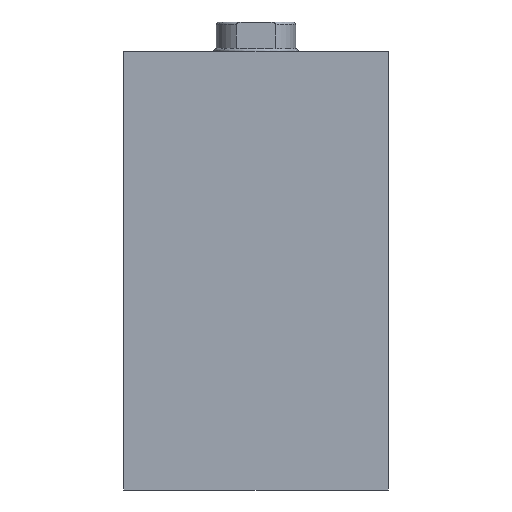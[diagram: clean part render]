
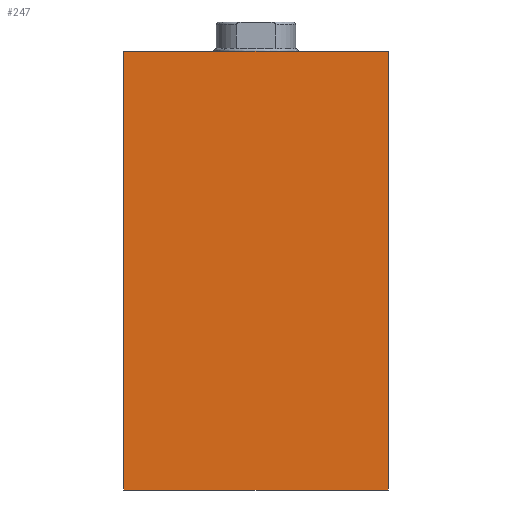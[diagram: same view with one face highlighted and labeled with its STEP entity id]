
A CAD part, left-side view. The second image highlights one B-rep face of the part: STEP entity #247.
In plain terms, the highlighted planar face has unit normal (-1, 0, 0) as drawn and (0, 0, -1) by its records, which use the part's own axes.
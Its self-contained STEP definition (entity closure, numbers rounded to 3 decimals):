
#247 = ADVANCED_FACE( '', ( #338 ), #339, .F. );
#338 = FACE_OUTER_BOUND( '', #554, .T. );
#339 = PLANE( '', #555 );
#554 = EDGE_LOOP( '', ( #789, #790, #791, #792 ) );
#555 = AXIS2_PLACEMENT_3D( '', #793, #794, #795 );
#789 = ORIENTED_EDGE( '', *, *, #1166, .T. );
#790 = ORIENTED_EDGE( '', *, *, #1183, .F. );
#791 = ORIENTED_EDGE( '', *, *, #1178, .F. );
#792 = ORIENTED_EDGE( '', *, *, #1182, .T. );
#793 = CARTESIAN_POINT( '', ( 166., -50., -37.5 ) );
#794 = DIRECTION( '', ( 0., 0., 1. ) );
#795 = DIRECTION( '', ( 1., 0., 0. ) );
#1166 = EDGE_CURVE( '', #1267, #1265, #1268, .T. );
#1178 = EDGE_CURVE( '', #1287, #1289, #1290, .T. );
#1182 = EDGE_CURVE( '', #1287, #1267, #1296, .T. );
#1183 = EDGE_CURVE( '', #1289, #1265, #1297, .T. );
#1265 = VERTEX_POINT( '', #1510 );
#1267 = VERTEX_POINT( '', #1513 );
#1268 = LINE( '', #1514, #1515 );
#1287 = VERTEX_POINT( '', #1706 );
#1289 = VERTEX_POINT( '', #1709 );
#1290 = LINE( '', #1710, #1711 );
#1296 = B_SPLINE_CURVE_WITH_KNOTS( '', 1, ( #1784, #1785 ), .UNSPECIFIED., .F., .F., ( 2, 2 ), ( 0., 1. ), .UNSPECIFIED. );
#1297 = B_SPLINE_CURVE_WITH_KNOTS( '', 1, ( #1786, #1787 ), .UNSPECIFIED., .F., .F., ( 2, 2 ), ( 0., 1. ), .UNSPECIFIED. );
#1510 = CARTESIAN_POINT( '', ( 0., 50., -37.5 ) );
#1513 = CARTESIAN_POINT( '', ( 0., -50., -37.5 ) );
#1514 = CARTESIAN_POINT( '', ( 0., -50., -37.5 ) );
#1515 = VECTOR( '', #4090, 1000. );
#1706 = CARTESIAN_POINT( '', ( 166., -50., -37.5 ) );
#1709 = CARTESIAN_POINT( '', ( 166., 50., -37.5 ) );
#1710 = CARTESIAN_POINT( '', ( 166., -50., -37.5 ) );
#1711 = VECTOR( '', #4097, 1000. );
#1784 = CARTESIAN_POINT( '', ( 166., -50., -37.5 ) );
#1785 = CARTESIAN_POINT( '', ( 0., -50., -37.5 ) );
#1786 = CARTESIAN_POINT( '', ( 166., 50., -37.5 ) );
#1787 = CARTESIAN_POINT( '', ( 0., 50., -37.5 ) );
#4090 = DIRECTION( '', ( 0., 1., 0. ) );
#4097 = DIRECTION( '', ( 0., 1., 0. ) );
